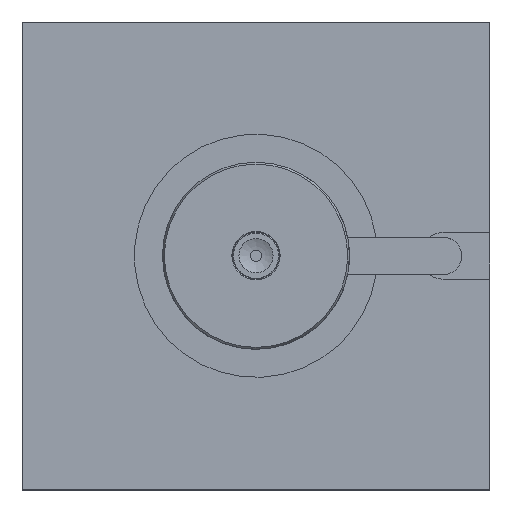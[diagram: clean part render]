
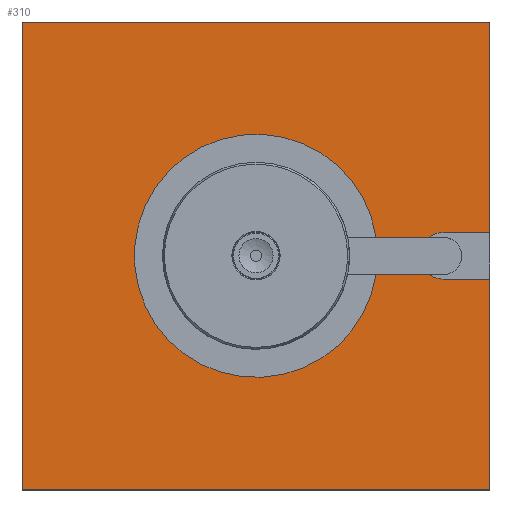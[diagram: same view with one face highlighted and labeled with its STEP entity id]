
A CAD part, top view. The second image highlights one B-rep face of the part: STEP entity #310.
In plain terms, the highlighted planar face has unit normal (0, 0, 1).
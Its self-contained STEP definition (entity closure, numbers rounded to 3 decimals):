
#310 = ADVANCED_FACE( '', ( #662 ), #663, .T. );
#662 = FACE_OUTER_BOUND( '', #1084, .T. );
#663 = PLANE( '', #1085 );
#1084 = EDGE_LOOP( '', ( #1681, #1682, #1683, #1684, #1685, #1686, #1687, #1688, #1689, #1690, #1691, #1692 ) );
#1085 = AXIS2_PLACEMENT_3D( '', #1693, #1694, #1695 );
#1681 = ORIENTED_EDGE( '', *, *, #1825, .F. );
#1682 = ORIENTED_EDGE( '', *, *, #1927, .F. );
#1683 = ORIENTED_EDGE( '', *, *, #1848, .F. );
#1684 = ORIENTED_EDGE( '', *, *, #1895, .F. );
#1685 = ORIENTED_EDGE( '', *, *, #1814, .T. );
#1686 = ORIENTED_EDGE( '', *, *, #1865, .T. );
#1687 = ORIENTED_EDGE( '', *, *, #1931, .T. );
#1688 = ORIENTED_EDGE( '', *, *, #1769, .T. );
#1689 = ORIENTED_EDGE( '', *, *, #1816, .T. );
#1690 = ORIENTED_EDGE( '', *, *, #1784, .F. );
#1691 = ORIENTED_EDGE( '', *, *, #1836, .F. );
#1692 = ORIENTED_EDGE( '', *, *, #1923, .F. );
#1693 = CARTESIAN_POINT( '', ( -125., -125., 0. ) );
#1694 = DIRECTION( '', ( 0., 0., 1. ) );
#1695 = DIRECTION( '', ( 0., -1., 0. ) );
#1769 = EDGE_CURVE( '', #2028, #2029, #2030, .T. );
#1784 = EDGE_CURVE( '', #2051, #2053, #2054, .T. );
#1814 = EDGE_CURVE( '', #2101, #2102, #2103, .T. );
#1816 = EDGE_CURVE( '', #2029, #2053, #2105, .T. );
#1825 = EDGE_CURVE( '', #2118, #2120, #2121, .T. );
#1836 = EDGE_CURVE( '', #2136, #2051, #2137, .T. );
#1848 = EDGE_CURVE( '', #2152, #2154, #2155, .T. );
#1865 = EDGE_CURVE( '', #2102, #2178, #2179, .T. );
#1895 = EDGE_CURVE( '', #2101, #2152, #2222, .T. );
#1923 = EDGE_CURVE( '', #2120, #2136, #2255, .T. );
#1927 = EDGE_CURVE( '', #2154, #2118, #2259, .T. );
#1931 = EDGE_CURVE( '', #2178, #2028, #2263, .T. );
#2028 = VERTEX_POINT( '', #2371 );
#2029 = VERTEX_POINT( '', #2372 );
#2030 = LINE( '', #2373, #2374 );
#2051 = VERTEX_POINT( '', #2398 );
#2053 = VERTEX_POINT( '', #2401 );
#2054 = LINE( '', #2402, #2403 );
#2101 = VERTEX_POINT( '', #2455 );
#2102 = VERTEX_POINT( '', #2456 );
#2103 = LINE( '', #2457, #2458 );
#2105 = LINE( '', #2461, #2462 );
#2118 = VERTEX_POINT( '', #2477 );
#2120 = VERTEX_POINT( '', #2480 );
#2121 = CIRCLE( '', #2481, 65. );
#2136 = VERTEX_POINT( '', #2497 );
#2137 = CIRCLE( '', #2498, 12.5 );
#2152 = VERTEX_POINT( '', #2514 );
#2154 = VERTEX_POINT( '', #2517 );
#2155 = CIRCLE( '', #2518, 12.5 );
#2178 = VERTEX_POINT( '', #2544 );
#2179 = LINE( '', #2545, #2546 );
#2222 = LINE( '', #2599, #2600 );
#2255 = LINE( '', #2641, #2642 );
#2259 = LINE( '', #2646, #2647 );
#2263 = LINE( '', #2652, #2653 );
#2371 = CARTESIAN_POINT( '', ( -125., -125., 0. ) );
#2372 = CARTESIAN_POINT( '', ( 125., -125., 0. ) );
#2373 = CARTESIAN_POINT( '', ( -125., -125., 0. ) );
#2374 = VECTOR( '', #2753, 1000. );
#2398 = CARTESIAN_POINT( '', ( 100., -12.5, 0. ) );
#2401 = CARTESIAN_POINT( '', ( 125., -12.5, 0. ) );
#2402 = CARTESIAN_POINT( '', ( 100., -12.5, 0. ) );
#2403 = VECTOR( '', #2773, 1000. );
#2455 = CARTESIAN_POINT( '', ( 125., 12.5, 0. ) );
#2456 = CARTESIAN_POINT( '', ( 125., 125., 0. ) );
#2457 = CARTESIAN_POINT( '', ( 125., -125., 0. ) );
#2458 = VECTOR( '', #2821, 1000. );
#2461 = CARTESIAN_POINT( '', ( 125., -125., 0. ) );
#2462 = VECTOR( '', #2823, 1000. );
#2477 = CARTESIAN_POINT( '', ( 64.226, 10., 0. ) );
#2480 = CARTESIAN_POINT( '', ( 64.226, -10., 0. ) );
#2481 = AXIS2_PLACEMENT_3D( '', #2836, #2837, #2838 );
#2497 = CARTESIAN_POINT( '', ( 92.5, -10., 0. ) );
#2498 = AXIS2_PLACEMENT_3D( '', #2852, #2853, #2854 );
#2514 = CARTESIAN_POINT( '', ( 100., 12.5, 0. ) );
#2517 = CARTESIAN_POINT( '', ( 92.5, 10., 0. ) );
#2518 = AXIS2_PLACEMENT_3D( '', #2869, #2870, #2871 );
#2544 = CARTESIAN_POINT( '', ( -125., 125., 0. ) );
#2545 = CARTESIAN_POINT( '', ( 125., 125., 0. ) );
#2546 = VECTOR( '', #2890, 1000. );
#2599 = CARTESIAN_POINT( '', ( 148.185, 12.5, 0. ) );
#2600 = VECTOR( '', #2925, 1000. );
#2641 = CARTESIAN_POINT( '', ( 0., -10., 0. ) );
#2642 = VECTOR( '', #2949, 1000. );
#2646 = CARTESIAN_POINT( '', ( 100., 10., 0. ) );
#2647 = VECTOR( '', #2950, 1000. );
#2652 = CARTESIAN_POINT( '', ( -125., 125., 0. ) );
#2653 = VECTOR( '', #2952, 1000. );
#2753 = DIRECTION( '', ( 1., 0., 0. ) );
#2773 = DIRECTION( '', ( 1., 0., 0. ) );
#2821 = DIRECTION( '', ( 0., 1., 0. ) );
#2823 = DIRECTION( '', ( 0., 1., 0. ) );
#2836 = CARTESIAN_POINT( '', ( 0., 0., 0. ) );
#2837 = DIRECTION( '', ( 0., 0., 1. ) );
#2838 = DIRECTION( '', ( 1., 0., 0. ) );
#2852 = CARTESIAN_POINT( '', ( 100., 0., 0. ) );
#2853 = DIRECTION( '', ( 0., 0., 1. ) );
#2854 = DIRECTION( '', ( 0., 1., 0. ) );
#2869 = CARTESIAN_POINT( '', ( 100., 0., 0. ) );
#2870 = DIRECTION( '', ( 0., 0., 1. ) );
#2871 = DIRECTION( '', ( 0., 1., 0. ) );
#2890 = DIRECTION( '', ( -1., 0., 0. ) );
#2925 = DIRECTION( '', ( -1., 0., 0. ) );
#2949 = DIRECTION( '', ( 1., 0., 0. ) );
#2950 = DIRECTION( '', ( -1., 0., 0. ) );
#2952 = DIRECTION( '', ( 0., -1., 0. ) );
